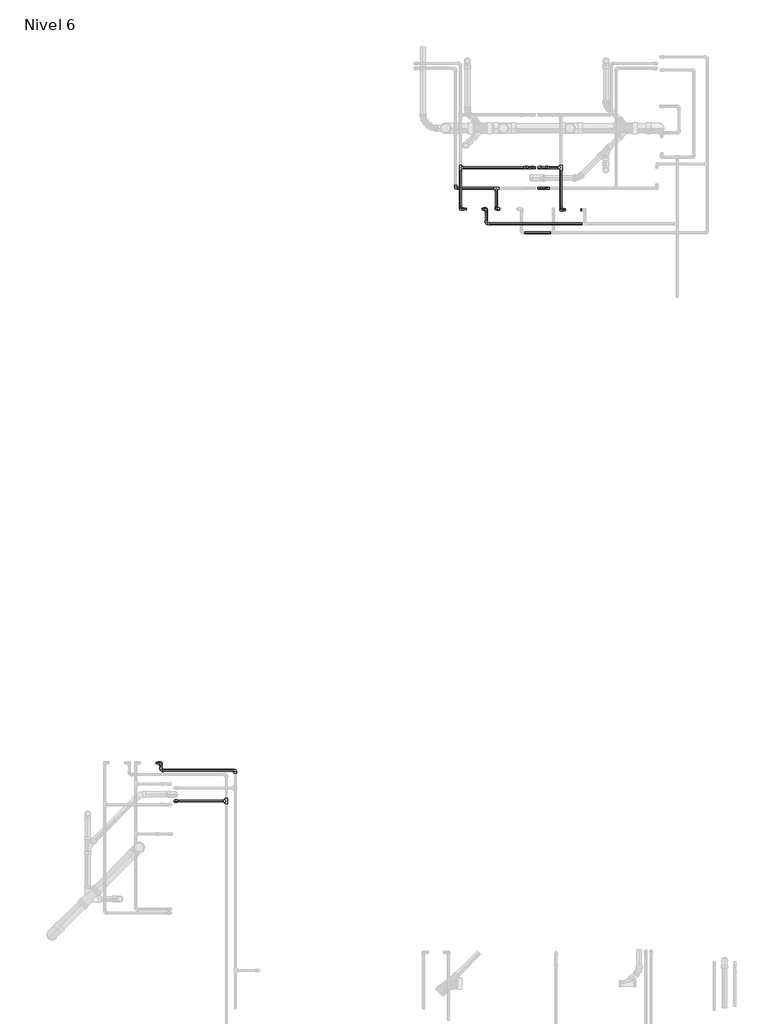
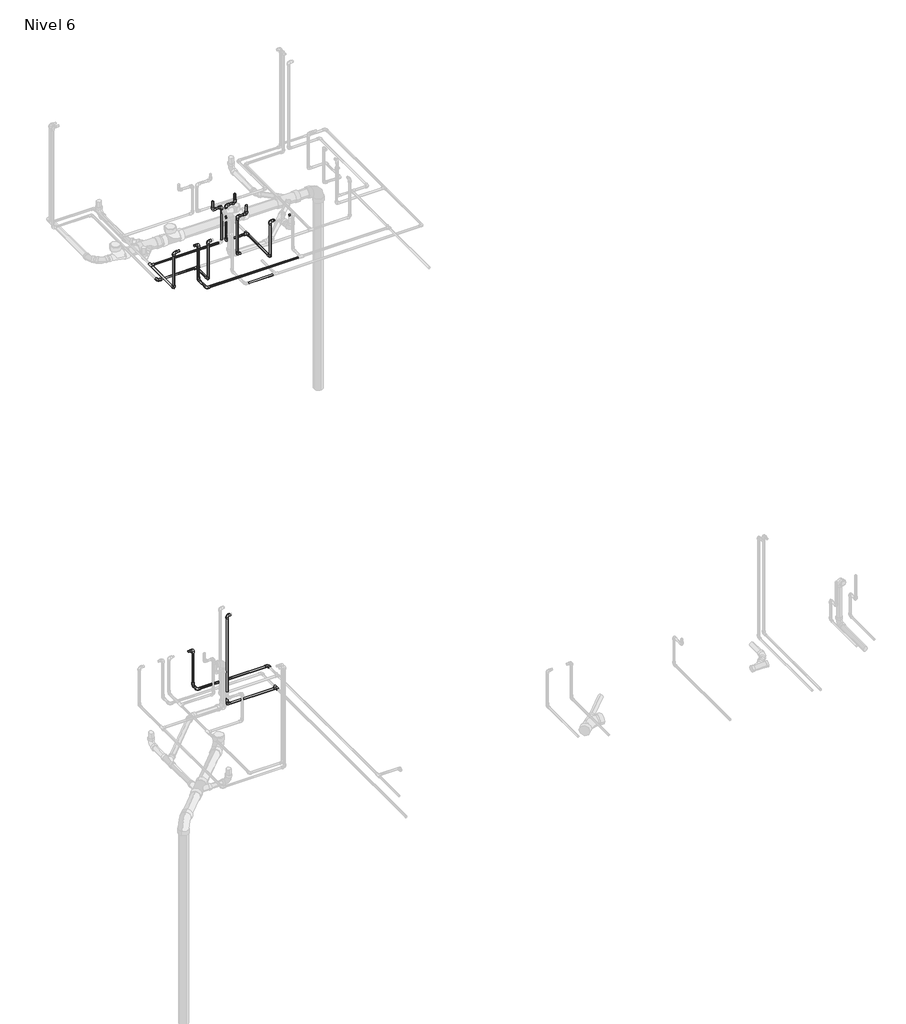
# One storey, part 8 of 11: 32 pipe segments, 28 pipe fittings.
"""IFC4 building model written with IfcOpenShell, lengths in millimetres."""

from ifc_helpers import new_model, si_unit, point, frame, frame_2d, origin, place, context, project, spatial, circle_curve, trimmed, segment, composite_curve, outline, extrude, transform, mapped, element, save
from components import pipe_fitting_ab418b84, m_codo_pvc_serie_40_9ad74631, m_codo_pvc_serie_40_ba05d404

model = new_model("IFC4")

# Units and contexts
model_context = context("Model", 3, world=origin())
ifc_project = project(units=[si_unit("LENGTHUNIT", "METRE", prefix="MILLI")], contexts=[model_context])

# Site, building, storey
site = spatial("IfcSite", under=ifc_project)
building = spatial("IfcBuilding", under=site)
storey = spatial("IfcBuildingStorey", under=building, Name="Nivel 6", Elevation=13400.0)

# Pipe fittings
placement = place(None, origin())
pipe_fitting_shape = pipe_fitting_ab418b84(model_context)
element("IfcPipeFitting", 1, ObjectType="M_Te - PVC - Serie 40 : Estándar", at=placement, inside=storey, context=model_context, shape_type="MappedRepresentation", body=[
    mapped(pipe_fitting_shape, transform((4735.1825677, 15948.3784167, 13350.0), x_axis=(0.0, 1.0, 0.0), y_axis=(1.0, 0.0, 0.0), z_axis=(0.0, 0.0, -1.0))),
])
element("IfcPipeFitting", 2, ObjectType="M_Te - PVC - Serie 40 : Estándar", at=placement, inside=storey, context=model_context, shape_type="MappedRepresentation", body=[
    mapped(pipe_fitting_shape, transform((3577.2224115, 15948.3784167, 13350.0), x_axis=(0.0, -1.0, 0.0), y_axis=(-1.0, 0.0, 0.0), z_axis=(0.0, 0.0, -1.0))),
])
element("IfcPipeFitting", 3, ObjectType="M_Te - PVC - Serie 40 : Estándar", at=placement, inside=storey, context=model_context, shape_type="MappedRepresentation", body=[
    mapped(pipe_fitting_shape, transform((3990.642724, 15711.6215833, 13320.0), x_axis=(-1.0, 0.0, 0.0), y_axis=(0.0, 1.0, 0.0), z_axis=(0.0, 0.0, -1.0))),
])
element("IfcPipeFitting", 4, ObjectType="M_Te - PVC - Serie 40 : Estándar", at=placement, inside=storey, context=model_context, shape_type="MappedRepresentation", body=[
    mapped(pipe_fitting_shape, transform((879.8834401, 8656.9732133, 13320.0), x_axis=(0.0, -1.0, 0.0), y_axis=(1.0, 0.0, 0.0), z_axis=(0.0, 0.0, 1.0))),
])
m_codo_pvc_serie_40_shape = m_codo_pvc_serie_40_9ad74631(model_context)
element("IfcPipeFitting", 5, ObjectType="M_Codo - PVC - Serie 40 : Estándar", at=placement, inside=storey, context=model_context, shape_type="MappedRepresentation", body=[
    mapped(m_codo_pvc_serie_40_shape, transform((4735.1825677, 15463.2696137, 13800.0), x_axis=(-1.0, 0.0, 0.0), y_axis=(0.0, 0.0, -1.0), z_axis=(0.0, -1.0, 0.0))),
])
element("IfcPipeFitting", 6, ObjectType="M_Codo - PVC - Serie 40 : Estándar", at=placement, inside=storey, context=model_context, shape_type="MappedRepresentation", body=[
    mapped(m_codo_pvc_serie_40_shape, transform((4735.1825677, 15463.2696137, 13350.0), x_axis=(0.0, 0.0, -1.0), y_axis=(0.0, 1.0, 0.0), z_axis=(1.0, 0.0, 0.0))),
])
element("IfcPipeFitting", 7, ObjectType="M_Codo - PVC - Serie 40 : Estándar", at=placement, inside=storey, context=model_context, shape_type="MappedRepresentation", body=[
    mapped(m_codo_pvc_serie_40_shape, transform((4589.8538958, 15948.3784167, 13800.0), x_axis=(0.0, 0.0, -1.0), y_axis=(-1.0, 0.0, 0.0), z_axis=(0.0, 1.0, 0.0))),
])
element("IfcPipeFitting", 8, ObjectType="M_Codo - PVC - Serie 40 : Estándar", at=placement, inside=storey, context=model_context, shape_type="MappedRepresentation", body=[
    mapped(m_codo_pvc_serie_40_shape, transform((4481.7288958, 15948.3784167, 13800.0), x_axis=(-1.0, 0.0, 0.0), y_axis=(0.0, 0.0, -1.0), z_axis=(0.0, -1.0, 0.0))),
])
element("IfcPipeFitting", 9, ObjectType="M_Codo - PVC - Serie 40 : Estándar", at=placement, inside=storey, context=model_context, shape_type="MappedRepresentation", body=[
    mapped(m_codo_pvc_serie_40_shape, transform((4481.7288958, 15948.3784167, 13350.0), x_axis=(0.0, 0.0, -1.0), y_axis=(1.0, 0.0, 0.0), z_axis=(0.0, -1.0, 0.0))),
])
element("IfcPipeFitting", 10, ObjectType="M_Codo - PVC - Serie 40 : Estándar", at=placement, inside=storey, context=model_context, shape_type="MappedRepresentation", body=[
    mapped(m_codo_pvc_serie_40_shape, transform((4481.7288958, 15711.6215833, 13320.0), x_axis=(0.0, 0.0, -1.0), y_axis=(1.0, 0.0, 0.0), z_axis=(0.0, -1.0, 0.0))),
])
element("IfcPipeFitting", 11, ObjectType="M_Codo - PVC - Serie 40 : Estándar", at=placement, inside=storey, context=model_context, shape_type="MappedRepresentation", body=[
    mapped(m_codo_pvc_serie_40_shape, transform((3990.642724, 15472.7717665, 13800.0), x_axis=(-1.0, 0.0, 0.0), y_axis=(0.0, 0.0, -1.0), z_axis=(0.0, -1.0, 0.0))),
])
element("IfcPipeFitting", 12, ObjectType="M_Codo - PVC - Serie 40 : Estándar", at=placement, inside=storey, context=model_context, shape_type="MappedRepresentation", body=[
    mapped(m_codo_pvc_serie_40_shape, transform((3990.642724, 15472.7717665, 13320.0), x_axis=(0.0, 0.0, -1.0), y_axis=(0.0, 1.0, 0.0), z_axis=(1.0, 0.0, 0.0))),
])
element("IfcPipeFitting", 13, ObjectType="M_Codo - PVC - Serie 40 : Estándar", at=placement, inside=storey, context=model_context, shape_type="MappedRepresentation", body=[
    mapped(m_codo_pvc_serie_40_shape, transform((3874.7224115, 15303.2696137, 13350.0), x_axis=(0.0, -1.0, 0.0), y_axis=(1.0, 0.0, 0.0), z_axis=(0.0, 0.0, 1.0))),
])
element("IfcPipeFitting", 14, ObjectType="M_Codo - PVC - Serie 40 : Estándar", at=placement, inside=storey, context=model_context, shape_type="MappedRepresentation", body=[
    mapped(m_codo_pvc_serie_40_shape, transform((3874.7224115, 15473.2696137, 13350.0), x_axis=(0.0, 1.0, 0.0), y_axis=(0.0, 0.0, 1.0), z_axis=(1.0, 0.0, 0.0))),
])
element("IfcPipeFitting", 15, ObjectType="M_Codo - PVC - Serie 40 : Estándar", at=placement, inside=storey, context=model_context, shape_type="MappedRepresentation", body=[
    mapped(m_codo_pvc_serie_40_shape, transform((3874.7224115, 15473.2696137, 13800.0), x_axis=(0.0, 0.0, 1.0), y_axis=(-1.0, 0.0, 0.0), z_axis=(0.0, -1.0, 0.0))),
])
element("IfcPipeFitting", 16, ObjectType="M_Codo - PVC - Serie 40 : Estándar", at=placement, inside=storey, context=model_context, shape_type="MappedRepresentation", body=[
    mapped(m_codo_pvc_serie_40_shape, transform((3577.2224115, 15473.2696137, 13800.0), x_axis=(-1.0, 0.0, 0.0), y_axis=(0.0, 0.0, -1.0), z_axis=(0.0, -1.0, 0.0))),
])
element("IfcPipeFitting", 17, ObjectType="M_Codo - PVC - Serie 40 : Estándar", at=placement, inside=storey, context=model_context, shape_type="MappedRepresentation", body=[
    mapped(m_codo_pvc_serie_40_shape, transform((3577.2224115, 15473.2696137, 13350.0), x_axis=(0.0, 0.0, -1.0), y_axis=(0.0, 1.0, 0.0), z_axis=(1.0, 0.0, 0.0))),
])
element("IfcPipeFitting", 18, ObjectType="M_Codo - PVC - Serie 40 : Estándar", at=placement, inside=storey, context=model_context, shape_type="MappedRepresentation", body=[
    mapped(m_codo_pvc_serie_40_shape, transform((3520.1825677, 15711.6215833, 13320.0), x_axis=(0.0, -1.0, 0.0), y_axis=(1.0, 0.0, 0.0), z_axis=(0.0, 0.0, 1.0))),
])
element("IfcPipeFitting", 19, ObjectType="M_Codo - PVC - Serie 40 : Estándar", at=placement, inside=storey, context=model_context, shape_type="MappedRepresentation", body=[
    mapped(m_codo_pvc_serie_40_shape, transform((126.2795655, 9010.6576087, 13350.0), x_axis=(0.0, -1.0, 0.0), y_axis=(1.0, 0.0, 0.0), z_axis=(0.0, 0.0, 1.0))),
])
element("IfcPipeFitting", 20, ObjectType="M_Codo - PVC - Serie 40 : Estándar", at=placement, inside=storey, context=model_context, shape_type="MappedRepresentation", body=[
    mapped(m_codo_pvc_serie_40_shape, transform((126.2795655, 9095.6576087, 13350.0), x_axis=(0.0, 1.0, 0.0), y_axis=(0.0, 0.0, 1.0), z_axis=(1.0, 0.0, 0.0))),
])
element("IfcPipeFitting", 21, ObjectType="M_Codo - PVC - Serie 40 : Estándar", at=placement, inside=storey, context=model_context, shape_type="MappedRepresentation", body=[
    mapped(m_codo_pvc_serie_40_shape, transform((126.2795655, 9095.6576087, 13800.0), x_axis=(0.0, 0.0, 1.0), y_axis=(-1.0, 0.0, 0.0), z_axis=(0.0, -1.0, 0.0))),
])
element("IfcPipeFitting", 22, ObjectType="M_Codo - PVC - Serie 40 : Estándar", at=placement, inside=storey, context=model_context, shape_type="MappedRepresentation", body=[
    mapped(m_codo_pvc_serie_40_shape, transform((984.8834401, 9010.6576087, 13350.0), x_axis=(0.0, 1.0, 0.0), y_axis=(-1.0, 0.0, 0.0), z_axis=(0.0, 0.0, 1.0))),
])
element("IfcPipeFitting", 23, ObjectType="M_Codo - PVC - Serie 40 : Estándar", at=placement, inside=storey, context=model_context, shape_type="MappedRepresentation", body=[
    mapped(m_codo_pvc_serie_40_shape, transform((286.7415228, 8656.9732133, 14450.0), x_axis=(-1.0, 0.0, 0.0), y_axis=(0.0, 0.0, -1.0), z_axis=(0.0, -1.0, 0.0))),
])
element("IfcPipeFitting", 24, ObjectType="M_Codo - PVC - Serie 40 : Estándar", at=placement, inside=storey, context=model_context, shape_type="MappedRepresentation", body=[
    mapped(m_codo_pvc_serie_40_shape, transform((286.7415228, 8656.9732133, 13320.0), x_axis=(0.0, 0.0, -1.0), y_axis=(1.0, 0.0, 0.0), z_axis=(0.0, -1.0, 0.0))),
])
m_codo_pvc_serie_40_2_shape = m_codo_pvc_serie_40_ba05d404(model_context)
element("IfcPipeFitting", 25, ObjectType="M_Codo - PVC - Serie 40 : Estándar", at=placement, inside=storey, context=model_context, shape_type="MappedRepresentation", body=[
    mapped(m_codo_pvc_serie_40_2_shape, transform((4589.8538958, 15711.6215833, 13800.0), x_axis=(0.0, 0.0, -1.0), y_axis=(1.0, 0.0, 0.0), z_axis=(0.0, -1.0, 0.0))),
])
element("IfcPipeFitting", 26, ObjectType="M_Codo - PVC - Serie 40 : Estándar", at=placement, inside=storey, context=model_context, shape_type="MappedRepresentation", body=[
    mapped(m_codo_pvc_serie_40_2_shape, transform((4481.7288958, 15711.6215833, 13800.0), x_axis=(-1.0, 0.0, 0.0), y_axis=(0.0, 0.0, 1.0), z_axis=(0.0, 1.0, 0.0))),
])
element("IfcPipeFitting", 27, ObjectType="M_Codo - PVC - Serie 40 : Estándar", at=placement, inside=storey, context=model_context, shape_type="MappedRepresentation", body=[
    mapped(m_codo_pvc_serie_40_2_shape, transform((4320.052369, 15948.3784167, 13800.0), x_axis=(0.0, 0.0, -1.0), y_axis=(-1.0, 0.0, 0.0), z_axis=(0.0, 1.0, 0.0))),
])
element("IfcPipeFitting", 28, ObjectType="M_Codo - PVC - Serie 40 : Estándar", at=placement, inside=storey, context=model_context, shape_type="MappedRepresentation", body=[
    mapped(m_codo_pvc_serie_40_2_shape, transform((4428.177369, 15948.3784167, 13800.0), x_axis=(1.0, 0.0, 0.0), y_axis=(0.0, 0.0, 1.0), z_axis=(0.0, -1.0, 0.0))),
])

# Pipe segments
element("IfcPipeSegment", 29, ObjectType="Tuberia PVC Agua Fria", at=placement, inside=storey, context=model_context, shape_type="SweptSolid", body=[
    extrude(outline(composite_curve([segment(trimmed(circle_curve(frame_2d((15463.2696137, 13800.0)), 10.31875), [point((15473.5883637, 13800.0))], [point((15463.2696137, 13789.68125))], False, "CARTESIAN"), True, "CONTINUOUS"), segment(trimmed(circle_curve(frame_2d((15463.2696137, 13800.0)), 10.31875), [point((15463.2696137, 13789.68125))], [point((15452.9508637, 13800.0))], False, "CARTESIAN"), True, "CONTINUOUS"), segment(trimmed(circle_curve(frame_2d((15463.2696137, 13800.0)), 10.31875), [point((15452.9508637, 13800.0))], [point((15463.2696137, 13810.31875))], False, "CARTESIAN"), True, "CONTINUOUS"), segment(trimmed(circle_curve(frame_2d((15463.2696137, 13800.0)), 10.31875), [point((15463.2696137, 13810.31875))], [point((15473.5883637, 13800.0))], False, "CARTESIAN"), True, "CONTINUOUS")], self_intersect=False)), frame((4768.5835677, 0.0, 0.0), z_axis=(1.0, 0.0, 0.0), x_axis=(0.0, 1.0, 0.0)), (0.0, 0.0, 1.0), 17.599),
])
element("IfcPipeSegment", 30, ObjectType="Tuberia PVC Agua Fria", at=placement, inside=storey, context=model_context, shape_type="SweptSolid", body=[
    extrude(outline(composite_curve([segment(trimmed(circle_curve(frame_2d((4735.1825677, 15463.2696137)), 10.31875), [point((4745.5013177, 15463.2696137))], [point((4735.1825677, 15452.9508637))], False, "CARTESIAN"), True, "CONTINUOUS"), segment(trimmed(circle_curve(frame_2d((4735.1825677, 15463.2696137)), 10.31875), [point((4735.1825677, 15452.9508637))], [point((4724.8638177, 15463.2696137))], False, "CARTESIAN"), True, "CONTINUOUS"), segment(trimmed(circle_curve(frame_2d((4735.1825677, 15463.2696137)), 10.31875), [point((4724.8638177, 15463.2696137))], [point((4735.1825677, 15473.5883637))], False, "CARTESIAN"), True, "CONTINUOUS"), segment(trimmed(circle_curve(frame_2d((4735.1825677, 15463.2696137)), 10.31875), [point((4735.1825677, 15473.5883637))], [point((4745.5013177, 15463.2696137))], False, "CARTESIAN"), True, "CONTINUOUS")], self_intersect=False)), frame((0.0, 0.0, 13383.401), z_axis=(0.0, 0.0, 1.0), x_axis=(1.0, 0.0, 0.0)), (0.0, 0.0, 1.0), 383.198),
])
element("IfcPipeSegment", 31, ObjectType="Tuberia PVC Agua Fria", at=placement, inside=storey, context=model_context, shape_type="SweptSolid", body=[
    extrude(outline(composite_curve([segment(trimmed(circle_curve(frame_2d((15463.2696137, 13800.0)), 10.31875), [point((15473.5883637, 13800.0))], [point((15463.2696137, 13789.68125))], False, "CARTESIAN"), True, "CONTINUOUS"), segment(trimmed(circle_curve(frame_2d((15463.2696137, 13800.0)), 10.31875), [point((15463.2696137, 13789.68125))], [point((15452.9508637, 13800.0))], False, "CARTESIAN"), True, "CONTINUOUS"), segment(trimmed(circle_curve(frame_2d((15463.2696137, 13800.0)), 10.31875), [point((15452.9508637, 13800.0))], [point((15463.2696137, 13810.31875))], False, "CARTESIAN"), True, "CONTINUOUS"), segment(trimmed(circle_curve(frame_2d((15463.2696137, 13800.0)), 10.31875), [point((15463.2696137, 13810.31875))], [point((15473.5883637, 13800.0))], False, "CARTESIAN"), True, "CONTINUOUS")], self_intersect=False)), frame((4964.1825677, 0.0, 0.0), z_axis=(1.0, 0.0, 0.0), x_axis=(0.0, 1.0, 0.0)), (0.0, 0.0, 1.0), 12.599),
])
element("IfcPipeSegment", 32, ObjectType="Tuberia PVC Agua Fria", at=placement, inside=storey, context=model_context, shape_type="SweptSolid", body=[
    extrude(outline(composite_curve([segment(trimmed(circle_curve(frame_2d((15948.3784167, 13800.0)), 10.31875), [point((15958.6971667, 13800.0))], [point((15948.3784167, 13789.68125))], False, "CARTESIAN"), True, "CONTINUOUS"), segment(trimmed(circle_curve(frame_2d((15948.3784167, 13800.0)), 10.31875), [point((15948.3784167, 13789.68125))], [point((15938.0596667, 13800.0))], False, "CARTESIAN"), True, "CONTINUOUS"), segment(trimmed(circle_curve(frame_2d((15948.3784167, 13800.0)), 10.31875), [point((15938.0596667, 13800.0))], [point((15948.3784167, 13810.31875))], False, "CARTESIAN"), True, "CONTINUOUS"), segment(trimmed(circle_curve(frame_2d((15948.3784167, 13800.0)), 10.31875), [point((15948.3784167, 13810.31875))], [point((15958.6971667, 13800.0))], False, "CARTESIAN"), True, "CONTINUOUS")], self_intersect=False)), frame((4515.1298958, 0.0, 0.0), z_axis=(1.0, 0.0, 0.0), x_axis=(0.0, 1.0, 0.0)), (0.0, 0.0, 1.0), 41.323),
])
element("IfcPipeSegment", 33, ObjectType="Tuberia PVC Agua Fria", at=placement, inside=storey, context=model_context, shape_type="SweptSolid", body=[
    extrude(outline(composite_curve([segment(trimmed(circle_curve(frame_2d((4589.8538958, 15948.3784167)), 10.31875), [point((4600.1726458, 15948.3784167))], [point((4589.8538958, 15938.0596667))], False, "CARTESIAN"), True, "CONTINUOUS"), segment(trimmed(circle_curve(frame_2d((4589.8538958, 15948.3784167)), 10.31875), [point((4589.8538958, 15938.0596667))], [point((4579.5351458, 15948.3784167))], False, "CARTESIAN"), True, "CONTINUOUS"), segment(trimmed(circle_curve(frame_2d((4589.8538958, 15948.3784167)), 10.31875), [point((4579.5351458, 15948.3784167))], [point((4589.8538958, 15958.6971667))], False, "CARTESIAN"), True, "CONTINUOUS"), segment(trimmed(circle_curve(frame_2d((4589.8538958, 15948.3784167)), 10.31875), [point((4589.8538958, 15958.6971667))], [point((4600.1726458, 15948.3784167))], False, "CARTESIAN"), True, "CONTINUOUS")], self_intersect=False)), frame((0.0, 0.0, 13833.401), z_axis=(0.0, 0.0, 1.0), x_axis=(1.0, 0.0, 0.0)), (0.0, 0.0, 1.0), 74.0983614),
])
element("IfcPipeSegment", 34, ObjectType="Tuberia PVC Agua Fria", at=placement, inside=storey, context=model_context, shape_type="SweptSolid", body=[
    extrude(outline(composite_curve([segment(trimmed(circle_curve(frame_2d((4481.7288958, 15948.3784167)), 10.31875), [point((4492.0476458, 15948.3784167))], [point((4481.7288958, 15938.0596667))], False, "CARTESIAN"), True, "CONTINUOUS"), segment(trimmed(circle_curve(frame_2d((4481.7288958, 15948.3784167)), 10.31875), [point((4481.7288958, 15938.0596667))], [point((4471.4101458, 15948.3784167))], False, "CARTESIAN"), True, "CONTINUOUS"), segment(trimmed(circle_curve(frame_2d((4481.7288958, 15948.3784167)), 10.31875), [point((4471.4101458, 15948.3784167))], [point((4481.7288958, 15958.6971667))], False, "CARTESIAN"), True, "CONTINUOUS"), segment(trimmed(circle_curve(frame_2d((4481.7288958, 15948.3784167)), 10.31875), [point((4481.7288958, 15958.6971667))], [point((4492.0476458, 15948.3784167))], False, "CARTESIAN"), True, "CONTINUOUS")], self_intersect=False)), frame((0.0, 0.0, 13383.401), z_axis=(0.0, 0.0, 1.0), x_axis=(1.0, 0.0, 0.0)), (0.0, 0.0, 1.0), 383.198),
])
element("IfcPipeSegment", 35, ObjectType="Tuberia PVC Agua Fria", at=placement, inside=storey, context=model_context, shape_type="SweptSolid", body=[
    extrude(outline(composite_curve([segment(trimmed(circle_curve(frame_2d((15948.3784167, 13350.0)), 10.31875), [point((15938.0596667, 13350.0))], [point((15948.3784167, 13360.31875))], False, "CARTESIAN"), True, "CONTINUOUS"), segment(trimmed(circle_curve(frame_2d((15948.3784167, 13350.0)), 10.31875), [point((15948.3784167, 13360.31875))], [point((15958.6971667, 13350.0))], False, "CARTESIAN"), True, "CONTINUOUS"), segment(trimmed(circle_curve(frame_2d((15948.3784167, 13350.0)), 10.31875), [point((15958.6971667, 13350.0))], [point((15948.3784167, 13339.68125))], False, "CARTESIAN"), True, "CONTINUOUS"), segment(trimmed(circle_curve(frame_2d((15948.3784167, 13350.0)), 10.31875), [point((15948.3784167, 13339.68125))], [point((15938.0596667, 13350.0))], False, "CARTESIAN"), True, "CONTINUOUS")], self_intersect=False)), frame((4515.1298958, 0.0, 0.0), z_axis=(1.0, 0.0, 0.0), x_axis=(0.0, 1.0, 0.0)), (0.0, 0.0, 1.0), 189.5925157),
])
element("IfcPipeSegment", 36, ObjectType="Tuberia PVC Agua Fria", at=placement, inside=storey, context=model_context, shape_type="SweptSolid", body=[
    extrude(outline(composite_curve([segment(trimmed(circle_curve(frame_2d((13350.0, 4735.1825677)), 10.31875), [point((13350.0, 4745.5013177))], [point((13360.31875, 4735.1825677))], False, "CARTESIAN"), True, "CONTINUOUS"), segment(trimmed(circle_curve(frame_2d((13350.0, 4735.1825677)), 10.31875), [point((13360.31875, 4735.1825677))], [point((13350.0, 4724.8638177))], False, "CARTESIAN"), True, "CONTINUOUS"), segment(trimmed(circle_curve(frame_2d((13350.0, 4735.1825677)), 10.31875), [point((13350.0, 4724.8638177))], [point((13339.68125, 4735.1825677))], False, "CARTESIAN"), True, "CONTINUOUS"), segment(trimmed(circle_curve(frame_2d((13350.0, 4735.1825677)), 10.31875), [point((13339.68125, 4735.1825677))], [point((13350.0, 4745.5013177))], False, "CARTESIAN"), True, "CONTINUOUS")], self_intersect=False)), frame((0.0, 15496.6706137, 0.0), z_axis=(0.0, 1.0, 0.0), x_axis=(0.0, 0.0, 1.0)), (0.0, 0.0, 1.0), 421.2476467),
])
element("IfcPipeSegment", 37, ObjectType="Tuberia PVC Agua Fria", at=placement, inside=storey, context=model_context, shape_type="SweptSolid", body=[
    extrude(outline(composite_curve([segment(trimmed(circle_curve(frame_2d((15303.2696137, 13350.0)), 10.31875), [point((15313.5883637, 13350.0))], [point((15303.2696137, 13339.68125))], False, "CARTESIAN"), True, "CONTINUOUS"), segment(trimmed(circle_curve(frame_2d((15303.2696137, 13350.0)), 10.31875), [point((15303.2696137, 13339.68125))], [point((15292.9508637, 13350.0))], False, "CARTESIAN"), True, "CONTINUOUS"), segment(trimmed(circle_curve(frame_2d((15303.2696137, 13350.0)), 10.31875), [point((15292.9508637, 13350.0))], [point((15303.2696137, 13360.31875))], False, "CARTESIAN"), True, "CONTINUOUS"), segment(trimmed(circle_curve(frame_2d((15303.2696137, 13350.0)), 10.31875), [point((15303.2696137, 13360.31875))], [point((15313.5883637, 13350.0))], False, "CARTESIAN"), True, "CONTINUOUS")], self_intersect=False)), frame((3908.1234115, 0.0, 0.0), z_axis=(1.0, 0.0, 0.0), x_axis=(0.0, 1.0, 0.0)), (0.0, 0.0, 1.0), 1071.599),
])
element("IfcPipeSegment", 38, ObjectType="Tuberia PVC Agua Fria", at=placement, inside=storey, context=model_context, shape_type="SweptSolid", body=[
    extrude(outline(composite_curve([segment(trimmed(circle_curve(frame_2d((15948.3784167, 13800.0)), 10.31875), [point((15938.0596667, 13800.0))], [point((15948.3784167, 13810.31875))], False, "CARTESIAN"), True, "CONTINUOUS"), segment(trimmed(circle_curve(frame_2d((15948.3784167, 13800.0)), 10.31875), [point((15948.3784167, 13810.31875))], [point((15958.6971667, 13800.0))], False, "CARTESIAN"), True, "CONTINUOUS"), segment(trimmed(circle_curve(frame_2d((15948.3784167, 13800.0)), 10.31875), [point((15958.6971667, 13800.0))], [point((15948.3784167, 13789.68125))], False, "CARTESIAN"), True, "CONTINUOUS"), segment(trimmed(circle_curve(frame_2d((15948.3784167, 13800.0)), 10.31875), [point((15948.3784167, 13789.68125))], [point((15938.0596667, 13800.0))], False, "CARTESIAN"), True, "CONTINUOUS")], self_intersect=False)), frame((4353.453369, 0.0, 0.0), z_axis=(1.0, 0.0, 0.0), x_axis=(0.0, 1.0, 0.0)), (0.0, 0.0, 1.0), 41.323),
])
element("IfcPipeSegment", 39, ObjectType="Tuberia PVC Agua Fria", at=placement, inside=storey, context=model_context, shape_type="SweptSolid", body=[
    extrude(outline(composite_curve([segment(trimmed(circle_curve(frame_2d((4320.052369, 15948.3784167)), 10.31875), [point((4330.371119, 15948.3784167))], [point((4320.052369, 15938.0596667))], False, "CARTESIAN"), True, "CONTINUOUS"), segment(trimmed(circle_curve(frame_2d((4320.052369, 15948.3784167)), 10.31875), [point((4320.052369, 15938.0596667))], [point((4309.733619, 15948.3784167))], False, "CARTESIAN"), True, "CONTINUOUS"), segment(trimmed(circle_curve(frame_2d((4320.052369, 15948.3784167)), 10.31875), [point((4309.733619, 15948.3784167))], [point((4320.052369, 15958.6971667))], False, "CARTESIAN"), True, "CONTINUOUS"), segment(trimmed(circle_curve(frame_2d((4320.052369, 15948.3784167)), 10.31875), [point((4320.052369, 15958.6971667))], [point((4330.371119, 15948.3784167))], False, "CARTESIAN"), True, "CONTINUOUS")], self_intersect=False)), frame((0.0, 0.0, 13833.401), z_axis=(0.0, 0.0, 1.0), x_axis=(1.0, 0.0, 0.0)), (0.0, 0.0, 1.0), 74.0983614),
])
element("IfcPipeSegment", 40, ObjectType="Tuberia PVC Agua Fria", at=placement, inside=storey, context=model_context, shape_type="SweptSolid", body=[
    extrude(outline(composite_curve([segment(trimmed(circle_curve(frame_2d((4428.177369, 15948.3784167)), 10.31875), [point((4438.496119, 15948.3784167))], [point((4428.177369, 15938.0596667))], False, "CARTESIAN"), True, "CONTINUOUS"), segment(trimmed(circle_curve(frame_2d((4428.177369, 15948.3784167)), 10.31875), [point((4428.177369, 15938.0596667))], [point((4417.858619, 15948.3784167))], False, "CARTESIAN"), True, "CONTINUOUS"), segment(trimmed(circle_curve(frame_2d((4428.177369, 15948.3784167)), 10.31875), [point((4417.858619, 15948.3784167))], [point((4428.177369, 15958.6971667))], False, "CARTESIAN"), True, "CONTINUOUS"), segment(trimmed(circle_curve(frame_2d((4428.177369, 15948.3784167)), 10.31875), [point((4428.177369, 15958.6971667))], [point((4438.496119, 15948.3784167))], False, "CARTESIAN"), True, "CONTINUOUS")], self_intersect=False)), frame((0.0, 0.0, 13383.401), z_axis=(0.0, 0.0, 1.0), x_axis=(1.0, 0.0, 0.0)), (0.0, 0.0, 1.0), 383.198),
])
element("IfcPipeSegment", 41, ObjectType="Tuberia PVC Agua Fria", at=placement, inside=storey, context=model_context, shape_type="SweptSolid", body=[
    extrude(outline(composite_curve([segment(trimmed(circle_curve(frame_2d((15948.3784167, 13350.0)), 10.31875), [point((15958.6971667, 13350.0))], [point((15948.3784167, 13339.68125))], False, "CARTESIAN"), True, "CONTINUOUS"), segment(trimmed(circle_curve(frame_2d((15948.3784167, 13350.0)), 10.31875), [point((15948.3784167, 13339.68125))], [point((15938.0596667, 13350.0))], False, "CARTESIAN"), True, "CONTINUOUS"), segment(trimmed(circle_curve(frame_2d((15948.3784167, 13350.0)), 10.31875), [point((15938.0596667, 13350.0))], [point((15948.3784167, 13360.31875))], False, "CARTESIAN"), True, "CONTINUOUS"), segment(trimmed(circle_curve(frame_2d((15948.3784167, 13350.0)), 10.31875), [point((15948.3784167, 13360.31875))], [point((15958.6971667, 13350.0))], False, "CARTESIAN"), True, "CONTINUOUS")], self_intersect=False)), frame((3607.6825677, 0.0, 0.0), z_axis=(1.0, 0.0, 0.0), x_axis=(0.0, 1.0, 0.0)), (0.0, 0.0, 1.0), 787.0938013),
])
element("IfcPipeSegment", 42, ObjectType="Tuberia PVC Agua Fria", at=placement, inside=storey, context=model_context, shape_type="SweptSolid", body=[
    extrude(outline(composite_curve([segment(trimmed(circle_curve(frame_2d((13350.0, 3874.7224115)), 10.31875), [point((13350.0, 3885.0411615))], [point((13360.31875, 3874.7224115))], False, "CARTESIAN"), True, "CONTINUOUS"), segment(trimmed(circle_curve(frame_2d((13350.0, 3874.7224115)), 10.31875), [point((13360.31875, 3874.7224115))], [point((13350.0, 3864.4036615))], False, "CARTESIAN"), True, "CONTINUOUS"), segment(trimmed(circle_curve(frame_2d((13350.0, 3874.7224115)), 10.31875), [point((13350.0, 3864.4036615))], [point((13339.68125, 3874.7224115))], False, "CARTESIAN"), True, "CONTINUOUS"), segment(trimmed(circle_curve(frame_2d((13350.0, 3874.7224115)), 10.31875), [point((13339.68125, 3874.7224115))], [point((13350.0, 3885.0411615))], False, "CARTESIAN"), True, "CONTINUOUS")], self_intersect=False)), frame((0.0, 15336.6706137, 0.0), z_axis=(0.0, 1.0, 0.0), x_axis=(0.0, 0.0, 1.0)), (0.0, 0.0, 1.0), 103.198),
])
element("IfcPipeSegment", 43, ObjectType="Tuberia PVC Agua Fria", at=placement, inside=storey, context=model_context, shape_type="SweptSolid", body=[
    extrude(outline(composite_curve([segment(trimmed(circle_curve(frame_2d((15473.2696137, 13800.0)), 10.31875), [point((15483.5883637, 13800.0))], [point((15473.2696137, 13789.68125))], False, "CARTESIAN"), True, "CONTINUOUS"), segment(trimmed(circle_curve(frame_2d((15473.2696137, 13800.0)), 10.31875), [point((15473.2696137, 13789.68125))], [point((15462.9508637, 13800.0))], False, "CARTESIAN"), True, "CONTINUOUS"), segment(trimmed(circle_curve(frame_2d((15473.2696137, 13800.0)), 10.31875), [point((15462.9508637, 13800.0))], [point((15473.2696137, 13810.31875))], False, "CARTESIAN"), True, "CONTINUOUS"), segment(trimmed(circle_curve(frame_2d((15473.2696137, 13800.0)), 10.31875), [point((15473.2696137, 13810.31875))], [point((15483.5883637, 13800.0))], False, "CARTESIAN"), True, "CONTINUOUS")], self_intersect=False)), frame((3610.6234115, 0.0, 0.0), z_axis=(1.0, 0.0, 0.0), x_axis=(0.0, 1.0, 0.0)), (0.0, 0.0, 1.0), 35.099),
])
element("IfcPipeSegment", 44, ObjectType="Tuberia PVC Agua Fria", at=placement, inside=storey, context=model_context, shape_type="SweptSolid", body=[
    extrude(outline(composite_curve([segment(trimmed(circle_curve(frame_2d((3874.7224115, 15473.2696137)), 10.31875), [point((3864.4036615, 15473.2696137))], [point((3874.7224115, 15483.5883637))], False, "CARTESIAN"), True, "CONTINUOUS"), segment(trimmed(circle_curve(frame_2d((3874.7224115, 15473.2696137)), 10.31875), [point((3874.7224115, 15483.5883637))], [point((3885.0411615, 15473.2696137))], False, "CARTESIAN"), True, "CONTINUOUS"), segment(trimmed(circle_curve(frame_2d((3874.7224115, 15473.2696137)), 10.31875), [point((3885.0411615, 15473.2696137))], [point((3874.7224115, 15462.9508637))], False, "CARTESIAN"), True, "CONTINUOUS"), segment(trimmed(circle_curve(frame_2d((3874.7224115, 15473.2696137)), 10.31875), [point((3874.7224115, 15462.9508637))], [point((3864.4036615, 15473.2696137))], False, "CARTESIAN"), True, "CONTINUOUS")], self_intersect=False)), frame((0.0, 0.0, 13383.401), z_axis=(0.0, 0.0, 1.0), x_axis=(1.0, 0.0, 0.0)), (0.0, 0.0, 1.0), 383.198),
])
element("IfcPipeSegment", 45, ObjectType="Tuberia PVC Agua Fria", at=placement, inside=storey, context=model_context, shape_type="SweptSolid", body=[
    extrude(outline(composite_curve([segment(trimmed(circle_curve(frame_2d((3577.2224115, 15473.2696137)), 10.31875), [point((3587.5411615, 15473.2696137))], [point((3577.2224115, 15462.9508637))], False, "CARTESIAN"), True, "CONTINUOUS"), segment(trimmed(circle_curve(frame_2d((3577.2224115, 15473.2696137)), 10.31875), [point((3577.2224115, 15462.9508637))], [point((3566.9036615, 15473.2696137))], False, "CARTESIAN"), True, "CONTINUOUS"), segment(trimmed(circle_curve(frame_2d((3577.2224115, 15473.2696137)), 10.31875), [point((3566.9036615, 15473.2696137))], [point((3577.2224115, 15483.5883637))], False, "CARTESIAN"), True, "CONTINUOUS"), segment(trimmed(circle_curve(frame_2d((3577.2224115, 15473.2696137)), 10.31875), [point((3577.2224115, 15483.5883637))], [point((3587.5411615, 15473.2696137))], False, "CARTESIAN"), True, "CONTINUOUS")], self_intersect=False)), frame((0.0, 0.0, 13383.401), z_axis=(0.0, 0.0, 1.0), x_axis=(1.0, 0.0, 0.0)), (0.0, 0.0, 1.0), 383.198),
])
element("IfcPipeSegment", 46, ObjectType="Tuberia PVC Agua Fria", at=placement, inside=storey, context=model_context, shape_type="SweptSolid", body=[
    extrude(outline(composite_curve([segment(trimmed(circle_curve(frame_2d((13350.0, 3577.2224115)), 10.31875), [point((13350.0, 3587.5411615))], [point((13360.31875, 3577.2224115))], False, "CARTESIAN"), True, "CONTINUOUS"), segment(trimmed(circle_curve(frame_2d((13350.0, 3577.2224115)), 10.31875), [point((13360.31875, 3577.2224115))], [point((13350.0, 3566.9036615))], False, "CARTESIAN"), True, "CONTINUOUS"), segment(trimmed(circle_curve(frame_2d((13350.0, 3577.2224115)), 10.31875), [point((13350.0, 3566.9036615))], [point((13339.68125, 3577.2224115))], False, "CARTESIAN"), True, "CONTINUOUS"), segment(trimmed(circle_curve(frame_2d((13350.0, 3577.2224115)), 10.31875), [point((13339.68125, 3577.2224115))], [point((13350.0, 3587.5411615))], False, "CARTESIAN"), True, "CONTINUOUS")], self_intersect=False)), frame((0.0, 15506.6706137, 0.0), z_axis=(0.0, 1.0, 0.0), x_axis=(0.0, 0.0, 1.0)), (0.0, 0.0, 1.0), 411.2476467),
])
element("IfcPipeSegment", 47, ObjectType="Tuberia PVC Agua Fria", at=placement, inside=storey, context=model_context, shape_type="SweptSolid", body=[
    extrude(outline(composite_curve([segment(trimmed(circle_curve(frame_2d((15473.2696137, 13800.0)), 10.31875), [point((15483.5883637, 13800.0))], [point((15473.2696137, 13789.68125))], False, "CARTESIAN"), True, "CONTINUOUS"), segment(trimmed(circle_curve(frame_2d((15473.2696137, 13800.0)), 10.31875), [point((15473.2696137, 13789.68125))], [point((15462.9508637, 13800.0))], False, "CARTESIAN"), True, "CONTINUOUS"), segment(trimmed(circle_curve(frame_2d((15473.2696137, 13800.0)), 10.31875), [point((15462.9508637, 13800.0))], [point((15473.2696137, 13810.31875))], False, "CARTESIAN"), True, "CONTINUOUS"), segment(trimmed(circle_curve(frame_2d((15473.2696137, 13800.0)), 10.31875), [point((15473.2696137, 13810.31875))], [point((15483.5883637, 13800.0))], False, "CARTESIAN"), True, "CONTINUOUS")], self_intersect=False)), frame((3823.7224115, 0.0, 0.0), z_axis=(1.0, 0.0, 0.0), x_axis=(0.0, 1.0, 0.0)), (0.0, 0.0, 1.0), 17.599),
])
element("IfcPipeSegment", 48, ObjectType="Tuberia PVC Agua Fria", at=placement, inside=storey, context=model_context, shape_type="SweptSolid", body=[
    extrude(outline(composite_curve([segment(trimmed(circle_curve(frame_2d((9010.6576087, 13350.0)), 10.31875), [point((9020.9763587, 13350.0))], [point((9010.6576087, 13339.68125))], False, "CARTESIAN"), True, "CONTINUOUS"), segment(trimmed(circle_curve(frame_2d((9010.6576087, 13350.0)), 10.31875), [point((9010.6576087, 13339.68125))], [point((9000.3388587, 13350.0))], False, "CARTESIAN"), True, "CONTINUOUS"), segment(trimmed(circle_curve(frame_2d((9010.6576087, 13350.0)), 10.31875), [point((9000.3388587, 13350.0))], [point((9010.6576087, 13360.31875))], False, "CARTESIAN"), True, "CONTINUOUS"), segment(trimmed(circle_curve(frame_2d((9010.6576087, 13350.0)), 10.31875), [point((9010.6576087, 13360.31875))], [point((9020.9763587, 13350.0))], False, "CARTESIAN"), True, "CONTINUOUS")], self_intersect=False)), frame((159.6805655, 0.0, 0.0), z_axis=(1.0, 0.0, 0.0), x_axis=(0.0, 1.0, 0.0)), (0.0, 0.0, 1.0), 791.8018746),
])
element("IfcPipeSegment", 49, ObjectType="Tuberia PVC Agua Fria", at=placement, inside=storey, context=model_context, shape_type="SweptSolid", body=[
    extrude(outline(composite_curve([segment(trimmed(circle_curve(frame_2d((13350.0, 126.2795655)), 10.31875), [point((13350.0, 136.5983155))], [point((13360.31875, 126.2795655))], False, "CARTESIAN"), True, "CONTINUOUS"), segment(trimmed(circle_curve(frame_2d((13350.0, 126.2795655)), 10.31875), [point((13360.31875, 126.2795655))], [point((13350.0, 115.9608155))], False, "CARTESIAN"), True, "CONTINUOUS"), segment(trimmed(circle_curve(frame_2d((13350.0, 126.2795655)), 10.31875), [point((13350.0, 115.9608155))], [point((13339.68125, 126.2795655))], False, "CARTESIAN"), True, "CONTINUOUS"), segment(trimmed(circle_curve(frame_2d((13350.0, 126.2795655)), 10.31875), [point((13339.68125, 126.2795655))], [point((13350.0, 136.5983155))], False, "CARTESIAN"), True, "CONTINUOUS")], self_intersect=False)), frame((0.0, 9044.0586087, 0.0), z_axis=(0.0, 1.0, 0.0), x_axis=(0.0, 0.0, 1.0)), (0.0, 0.0, 1.0), 18.198),
])
element("IfcPipeSegment", 50, ObjectType="Tuberia PVC Agua Fria", at=placement, inside=storey, context=model_context, shape_type="SweptSolid", body=[
    extrude(outline(composite_curve([segment(trimmed(circle_curve(frame_2d((126.2795655, 9095.6576087)), 10.31875), [point((115.9608155, 9095.6576087))], [point((126.2795655, 9105.9763587))], False, "CARTESIAN"), True, "CONTINUOUS"), segment(trimmed(circle_curve(frame_2d((126.2795655, 9095.6576087)), 10.31875), [point((126.2795655, 9105.9763587))], [point((136.5983155, 9095.6576087))], False, "CARTESIAN"), True, "CONTINUOUS"), segment(trimmed(circle_curve(frame_2d((126.2795655, 9095.6576087)), 10.31875), [point((136.5983155, 9095.6576087))], [point((126.2795655, 9085.3388587))], False, "CARTESIAN"), True, "CONTINUOUS"), segment(trimmed(circle_curve(frame_2d((126.2795655, 9095.6576087)), 10.31875), [point((126.2795655, 9085.3388587))], [point((115.9608155, 9095.6576087))], False, "CARTESIAN"), True, "CONTINUOUS")], self_intersect=False)), frame((0.0, 0.0, 13383.401), z_axis=(0.0, 0.0, 1.0), x_axis=(1.0, 0.0, 0.0)), (0.0, 0.0, 1.0), 383.198),
])
element("IfcPipeSegment", 51, ObjectType="Tuberia PVC Agua Fria", at=placement, inside=storey, context=model_context, shape_type="SweptSolid", body=[
    extrude(outline(composite_curve([segment(trimmed(circle_curve(frame_2d((9095.6576087, 13800.0)), 10.31875), [point((9105.9763587, 13800.0))], [point((9095.6576087, 13789.68125))], False, "CARTESIAN"), True, "CONTINUOUS"), segment(trimmed(circle_curve(frame_2d((9095.6576087, 13800.0)), 10.31875), [point((9095.6576087, 13789.68125))], [point((9085.3388587, 13800.0))], False, "CARTESIAN"), True, "CONTINUOUS"), segment(trimmed(circle_curve(frame_2d((9095.6576087, 13800.0)), 10.31875), [point((9085.3388587, 13800.0))], [point((9095.6576087, 13810.31875))], False, "CARTESIAN"), True, "CONTINUOUS"), segment(trimmed(circle_curve(frame_2d((9095.6576087, 13800.0)), 10.31875), [point((9095.6576087, 13810.31875))], [point((9105.9763587, 13800.0))], False, "CARTESIAN"), True, "CONTINUOUS")], self_intersect=False)), frame((70.2795655, 0.0, 0.0), z_axis=(1.0, 0.0, 0.0), x_axis=(0.0, 1.0, 0.0)), (0.0, 0.0, 1.0), 22.599),
])
element("IfcPipeSegment", 52, ObjectType="Tuberia PVC Agua Caliente", at=placement, inside=storey, context=model_context, shape_type="SweptSolid", body=[
    extrude(outline(composite_curve([segment(trimmed(circle_curve(frame_2d((15711.6215833, 13800.0)), 10.31875), [point((15721.9403333, 13800.0))], [point((15711.6215833, 13789.68125))], False, "CARTESIAN"), True, "CONTINUOUS"), segment(trimmed(circle_curve(frame_2d((15711.6215833, 13800.0)), 10.31875), [point((15711.6215833, 13789.68125))], [point((15701.3028333, 13800.0))], False, "CARTESIAN"), True, "CONTINUOUS"), segment(trimmed(circle_curve(frame_2d((15711.6215833, 13800.0)), 10.31875), [point((15701.3028333, 13800.0))], [point((15711.6215833, 13810.31875))], False, "CARTESIAN"), True, "CONTINUOUS"), segment(trimmed(circle_curve(frame_2d((15711.6215833, 13800.0)), 10.31875), [point((15711.6215833, 13810.31875))], [point((15721.9403333, 13800.0))], False, "CARTESIAN"), True, "CONTINUOUS")], self_intersect=False)), frame((4515.1298958, 0.0, 0.0), z_axis=(1.0, 0.0, 0.0), x_axis=(0.0, 1.0, 0.0)), (0.0, 0.0, 1.0), 41.323),
])
element("IfcPipeSegment", 53, ObjectType="Tuberia PVC Agua Caliente", at=placement, inside=storey, context=model_context, shape_type="SweptSolid", body=[
    extrude(outline(composite_curve([segment(trimmed(circle_curve(frame_2d((4589.8538958, 15711.6215833)), 10.31875), [point((4600.1726458, 15711.6215833))], [point((4589.8538958, 15701.3028333))], False, "CARTESIAN"), True, "CONTINUOUS"), segment(trimmed(circle_curve(frame_2d((4589.8538958, 15711.6215833)), 10.31875), [point((4589.8538958, 15701.3028333))], [point((4579.5351458, 15711.6215833))], False, "CARTESIAN"), True, "CONTINUOUS"), segment(trimmed(circle_curve(frame_2d((4589.8538958, 15711.6215833)), 10.31875), [point((4579.5351458, 15711.6215833))], [point((4589.8538958, 15721.9403333))], False, "CARTESIAN"), True, "CONTINUOUS"), segment(trimmed(circle_curve(frame_2d((4589.8538958, 15711.6215833)), 10.31875), [point((4589.8538958, 15721.9403333))], [point((4600.1726458, 15711.6215833))], False, "CARTESIAN"), True, "CONTINUOUS")], self_intersect=False)), frame((0.0, 0.0, 13833.401), z_axis=(0.0, 0.0, 1.0), x_axis=(1.0, 0.0, 0.0)), (0.0, 0.0, 1.0), 74.0983614),
])
element("IfcPipeSegment", 54, ObjectType="Tuberia PVC Agua Caliente", at=placement, inside=storey, context=model_context, shape_type="SweptSolid", body=[
    extrude(outline(composite_curve([segment(trimmed(circle_curve(frame_2d((4481.7288958, 15711.6215833)), 10.31875), [point((4492.0476458, 15711.6215833))], [point((4481.7288958, 15701.3028333))], False, "CARTESIAN"), True, "CONTINUOUS"), segment(trimmed(circle_curve(frame_2d((4481.7288958, 15711.6215833)), 10.31875), [point((4481.7288958, 15701.3028333))], [point((4471.4101458, 15711.6215833))], False, "CARTESIAN"), True, "CONTINUOUS"), segment(trimmed(circle_curve(frame_2d((4481.7288958, 15711.6215833)), 10.31875), [point((4471.4101458, 15711.6215833))], [point((4481.7288958, 15721.9403333))], False, "CARTESIAN"), True, "CONTINUOUS"), segment(trimmed(circle_curve(frame_2d((4481.7288958, 15711.6215833)), 10.31875), [point((4481.7288958, 15721.9403333))], [point((4492.0476458, 15711.6215833))], False, "CARTESIAN"), True, "CONTINUOUS")], self_intersect=False)), frame((0.0, 0.0, 13353.401), z_axis=(0.0, 0.0, 1.0), x_axis=(1.0, 0.0, 0.0)), (0.0, 0.0, 1.0), 413.198),
])
element("IfcPipeSegment", 55, ObjectType="Tuberia PVC Agua Caliente", at=placement, inside=storey, context=model_context, shape_type="SweptSolid", body=[
    extrude(outline(composite_curve([segment(trimmed(circle_curve(frame_2d((15199.4250606, 13320.0)), 10.31875), [point((15209.7438106, 13320.0))], [point((15199.4250606, 13309.68125))], False, "CARTESIAN"), True, "CONTINUOUS"), segment(trimmed(circle_curve(frame_2d((15199.4250606, 13320.0)), 10.31875), [point((15199.4250606, 13309.68125))], [point((15189.1063106, 13320.0))], False, "CARTESIAN"), True, "CONTINUOUS"), segment(trimmed(circle_curve(frame_2d((15199.4250606, 13320.0)), 10.31875), [point((15189.1063106, 13320.0))], [point((15199.4250606, 13330.31875))], False, "CARTESIAN"), True, "CONTINUOUS"), segment(trimmed(circle_curve(frame_2d((15199.4250606, 13320.0)), 10.31875), [point((15199.4250606, 13330.31875))], [point((15209.7438106, 13320.0))], False, "CARTESIAN"), True, "CONTINUOUS")], self_intersect=False)), frame((4314.043724, 0.0, 0.0), z_axis=(1.0, 0.0, 0.0), x_axis=(0.0, 1.0, 0.0)), (0.0, 0.0, 1.0), 302.2004469),
])
element("IfcPipeSegment", 56, ObjectType="Tuberia PVC Agua Caliente", at=placement, inside=storey, context=model_context, shape_type="SweptSolid", body=[
    extrude(outline(composite_curve([segment(trimmed(circle_curve(frame_2d((13320.0, 3990.642724)), 10.31875), [point((13320.0, 3980.323974))], [point((13309.68125, 3990.642724))], False, "CARTESIAN"), True, "CONTINUOUS"), segment(trimmed(circle_curve(frame_2d((13320.0, 3990.642724)), 10.31875), [point((13309.68125, 3990.642724))], [point((13320.0, 4000.961474))], False, "CARTESIAN"), True, "CONTINUOUS"), segment(trimmed(circle_curve(frame_2d((13320.0, 3990.642724)), 10.31875), [point((13320.0, 4000.961474))], [point((13330.31875, 3990.642724))], False, "CARTESIAN"), True, "CONTINUOUS"), segment(trimmed(circle_curve(frame_2d((13320.0, 3990.642724)), 10.31875), [point((13330.31875, 3990.642724))], [point((13320.0, 3980.323974))], False, "CARTESIAN"), True, "CONTINUOUS")], self_intersect=False)), frame((0.0, 15506.1727665, 0.0), z_axis=(0.0, 1.0, 0.0), x_axis=(0.0, 0.0, 1.0)), (0.0, 0.0, 1.0), 174.9886606),
])
element("IfcPipeSegment", 57, ObjectType="Tuberia PVC Agua Caliente", at=placement, inside=storey, context=model_context, shape_type="SweptSolid", body=[
    extrude(outline(composite_curve([segment(trimmed(circle_curve(frame_2d((3990.642724, 15472.7717665)), 10.31875), [point((4000.961474, 15472.7717665))], [point((3990.642724, 15462.4530165))], False, "CARTESIAN"), True, "CONTINUOUS"), segment(trimmed(circle_curve(frame_2d((3990.642724, 15472.7717665)), 10.31875), [point((3990.642724, 15462.4530165))], [point((3980.323974, 15472.7717665))], False, "CARTESIAN"), True, "CONTINUOUS"), segment(trimmed(circle_curve(frame_2d((3990.642724, 15472.7717665)), 10.31875), [point((3980.323974, 15472.7717665))], [point((3990.642724, 15483.0905165))], False, "CARTESIAN"), True, "CONTINUOUS"), segment(trimmed(circle_curve(frame_2d((3990.642724, 15472.7717665)), 10.31875), [point((3990.642724, 15483.0905165))], [point((4000.961474, 15472.7717665))], False, "CARTESIAN"), True, "CONTINUOUS")], self_intersect=False)), frame((0.0, 0.0, 13353.401), z_axis=(0.0, 0.0, 1.0), x_axis=(1.0, 0.0, 0.0)), (0.0, 0.0, 1.0), 413.198),
])
element("IfcPipeSegment", 58, ObjectType="Tuberia PVC Agua Caliente", at=placement, inside=storey, context=model_context, shape_type="SweptSolid", body=[
    extrude(outline(composite_curve([segment(trimmed(circle_curve(frame_2d((15711.6215833, 13320.0)), 10.31875), [point((15721.9403333, 13320.0))], [point((15711.6215833, 13309.68125))], False, "CARTESIAN"), True, "CONTINUOUS"), segment(trimmed(circle_curve(frame_2d((15711.6215833, 13320.0)), 10.31875), [point((15711.6215833, 13309.68125))], [point((15701.3028333, 13320.0))], False, "CARTESIAN"), True, "CONTINUOUS"), segment(trimmed(circle_curve(frame_2d((15711.6215833, 13320.0)), 10.31875), [point((15701.3028333, 13320.0))], [point((15711.6215833, 13330.31875))], False, "CARTESIAN"), True, "CONTINUOUS"), segment(trimmed(circle_curve(frame_2d((15711.6215833, 13320.0)), 10.31875), [point((15711.6215833, 13330.31875))], [point((15721.9403333, 13320.0))], False, "CARTESIAN"), True, "CONTINUOUS")], self_intersect=False)), frame((3553.5835677, 0.0, 0.0), z_axis=(1.0, 0.0, 0.0), x_axis=(0.0, 1.0, 0.0)), (0.0, 0.0, 1.0), 406.599),
])
element("IfcPipeSegment", 59, ObjectType="Tuberia PVC Agua Caliente", at=placement, inside=storey, context=model_context, shape_type="SweptSolid", body=[
    extrude(outline(composite_curve([segment(trimmed(circle_curve(frame_2d((8656.9732133, 13320.0)), 10.31875), [point((8667.2919633, 13320.0))], [point((8656.9732133, 13309.68125))], False, "CARTESIAN"), True, "CONTINUOUS"), segment(trimmed(circle_curve(frame_2d((8656.9732133, 13320.0)), 10.31875), [point((8656.9732133, 13309.68125))], [point((8646.6544633, 13320.0))], False, "CARTESIAN"), True, "CONTINUOUS"), segment(trimmed(circle_curve(frame_2d((8656.9732133, 13320.0)), 10.31875), [point((8646.6544633, 13320.0))], [point((8656.9732133, 13330.31875))], False, "CARTESIAN"), True, "CONTINUOUS"), segment(trimmed(circle_curve(frame_2d((8656.9732133, 13320.0)), 10.31875), [point((8656.9732133, 13330.31875))], [point((8667.2919633, 13320.0))], False, "CARTESIAN"), True, "CONTINUOUS")], self_intersect=False)), frame((320.1425228, 0.0, 0.0), z_axis=(1.0, 0.0, 0.0), x_axis=(0.0, 1.0, 0.0)), (0.0, 0.0, 1.0), 529.2807611),
])
element("IfcPipeSegment", 60, ObjectType="Tuberia PVC Agua Caliente", at=placement, inside=storey, context=model_context, shape_type="SweptSolid", body=[
    extrude(outline(composite_curve([segment(trimmed(circle_curve(frame_2d((286.7415228, 8656.9732133)), 10.31875), [point((297.0602728, 8656.9732133))], [point((286.7415228, 8646.6544633))], False, "CARTESIAN"), True, "CONTINUOUS"), segment(trimmed(circle_curve(frame_2d((286.7415228, 8656.9732133)), 10.31875), [point((286.7415228, 8646.6544633))], [point((276.4227728, 8656.9732133))], False, "CARTESIAN"), True, "CONTINUOUS"), segment(trimmed(circle_curve(frame_2d((286.7415228, 8656.9732133)), 10.31875), [point((276.4227728, 8656.9732133))], [point((286.7415228, 8667.2919633))], False, "CARTESIAN"), True, "CONTINUOUS"), segment(trimmed(circle_curve(frame_2d((286.7415228, 8656.9732133)), 10.31875), [point((286.7415228, 8667.2919633))], [point((297.0602728, 8656.9732133))], False, "CARTESIAN"), True, "CONTINUOUS")], self_intersect=False)), frame((0.0, 0.0, 13353.401), z_axis=(0.0, 0.0, 1.0), x_axis=(1.0, 0.0, 0.0)), (0.0, 0.0, 1.0), 1063.198),
])

save(model, "model.ifc")
